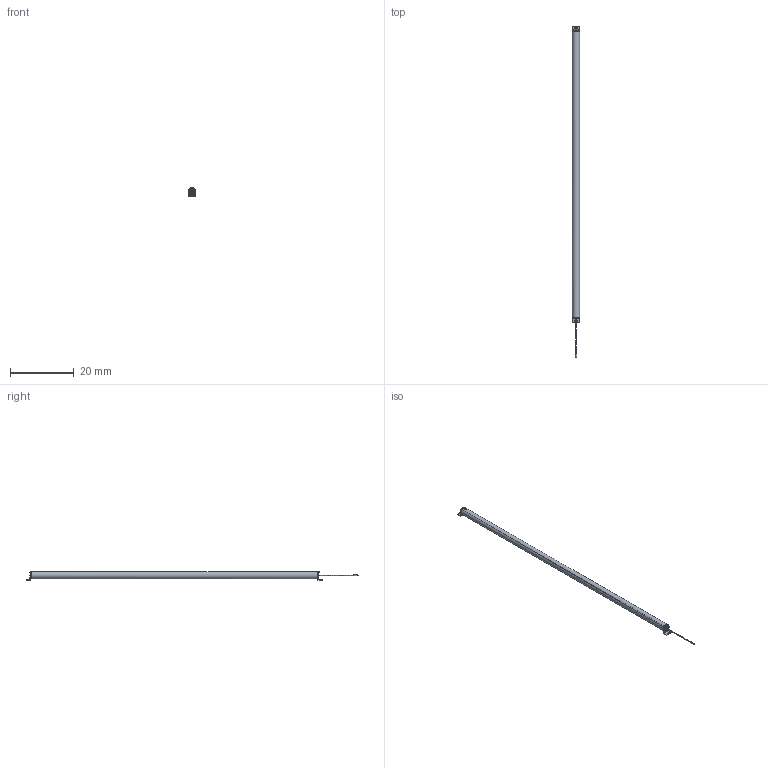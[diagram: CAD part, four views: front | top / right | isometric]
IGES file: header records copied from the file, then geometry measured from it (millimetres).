
Start section:  Autodesk DirectConnect version 7.0.27.0 ---- IGES version 5.3
Global section: file name: C:\ACADFILES\SS_PYLONS\CUSTOMER_FILES\SS-88-PYLON_3D_SMB_PT.iges; native system: Autodesk DirectConnect 7.0.27.0; preprocessor: 7.0.27.0; author: ENGINEERMAIN; organization: Unknown; date: 20150810.130602; units: millimetre
Bounding box: 2.26 x 104.01 x 2.75 mm (x, y, z)
Surface area: 2563 mm2 (no closed solid volume)
Topology: 0 solids, 0 shells, 772 faces, 3944 edges, 3944 vertices
Faces by surface type: bspline 772
